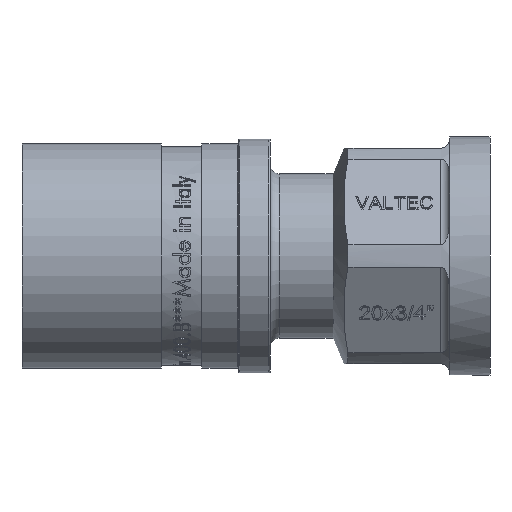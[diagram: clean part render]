
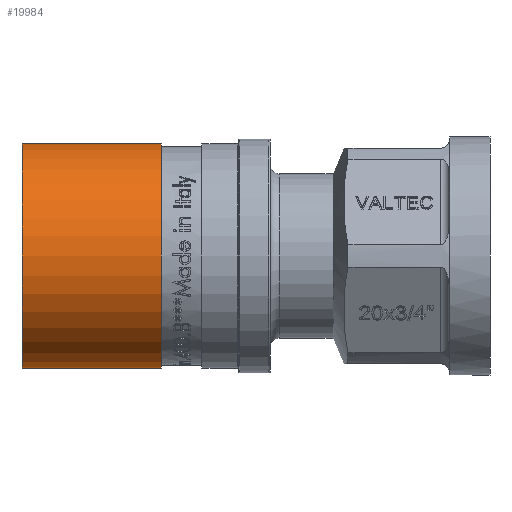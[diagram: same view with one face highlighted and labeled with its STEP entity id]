
A CAD part, front view. The second image highlights one B-rep face of the part: STEP entity #19984.
In plain terms, the highlighted cylindrical face has radius 12.5 mm (diameter 25 mm), a full revolution.
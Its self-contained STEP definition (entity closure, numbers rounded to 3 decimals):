
#2140=FACE_OUTER_BOUND('',#3329,.T.);
#3329=EDGE_LOOP('',(#18469,#18470,#18471,#18472,#18473,#18474));
#3624=CIRCLE('',#20860,12.5);
#3625=CIRCLE('',#20861,12.5);
#3636=CIRCLE('',#20880,12.5);
#3637=CIRCLE('',#20881,12.5);
#6331=LINE('',#43273,#7938);
#7938=VECTOR('',#24325,12.5);
#9810=VERTEX_POINT('',#43231);
#9811=VERTEX_POINT('',#43232);
#9822=VERTEX_POINT('',#43268);
#9823=VERTEX_POINT('',#43269);
#12724=EDGE_CURVE('',#9810,#9811,#3624,.T.);
#12725=EDGE_CURVE('',#9811,#9810,#3625,.T.);
#12741=EDGE_CURVE('',#9822,#9823,#3636,.T.);
#12742=EDGE_CURVE('',#9823,#9822,#3637,.T.);
#12743=EDGE_CURVE('',#9811,#9823,#6331,.T.);
#18469=ORIENTED_EDGE('',*,*,#12724,.F.);
#18470=ORIENTED_EDGE('',*,*,#12725,.F.);
#18471=ORIENTED_EDGE('',*,*,#12743,.T.);
#18472=ORIENTED_EDGE('',*,*,#12742,.T.);
#18473=ORIENTED_EDGE('',*,*,#12741,.T.);
#18474=ORIENTED_EDGE('',*,*,#12743,.F.);
#18938=CYLINDRICAL_SURFACE('',#20882,12.5);
#19984=ADVANCED_FACE('',(#2140),#18938,.T.);
#20860=AXIS2_PLACEMENT_3D('',#43233,#24274,#24275);
#20861=AXIS2_PLACEMENT_3D('',#43234,#24276,#24277);
#20880=AXIS2_PLACEMENT_3D('',#43270,#24319,#24320);
#20881=AXIS2_PLACEMENT_3D('',#43271,#24321,#24322);
#20882=AXIS2_PLACEMENT_3D('',#43272,#24323,#24324);
#24274=DIRECTION('center_axis',(1.,0.,0.));
#24275=DIRECTION('ref_axis',(0.,0.,-1.));
#24276=DIRECTION('center_axis',(1.,0.,0.));
#24277=DIRECTION('ref_axis',(0.,0.,-1.));
#24319=DIRECTION('center_axis',(1.,0.,0.));
#24320=DIRECTION('ref_axis',(0.,0.,-1.));
#24321=DIRECTION('center_axis',(1.,0.,0.));
#24322=DIRECTION('ref_axis',(0.,0.,-1.));
#24323=DIRECTION('center_axis',(1.,0.,0.));
#24324=DIRECTION('ref_axis',(0.,1.,0.));
#24325=DIRECTION('',(-1.,0.,0.));
#43231=CARTESIAN_POINT('',(-9.561,12.5,0.));
#43232=CARTESIAN_POINT('',(-9.561,-12.5,0.));
#43233=CARTESIAN_POINT('Origin',(-9.561,0.,0.));
#43234=CARTESIAN_POINT('Origin',(-9.561,0.,0.));
#43268=CARTESIAN_POINT('',(-25.061,12.5,0.));
#43269=CARTESIAN_POINT('',(-25.061,-12.5,0.));
#43270=CARTESIAN_POINT('Origin',(-25.061,0.,0.));
#43271=CARTESIAN_POINT('Origin',(-25.061,0.,0.));
#43272=CARTESIAN_POINT('Origin',(-17.311,0.,0.));
#43273=CARTESIAN_POINT('',(-17.311,-12.5,0.));
